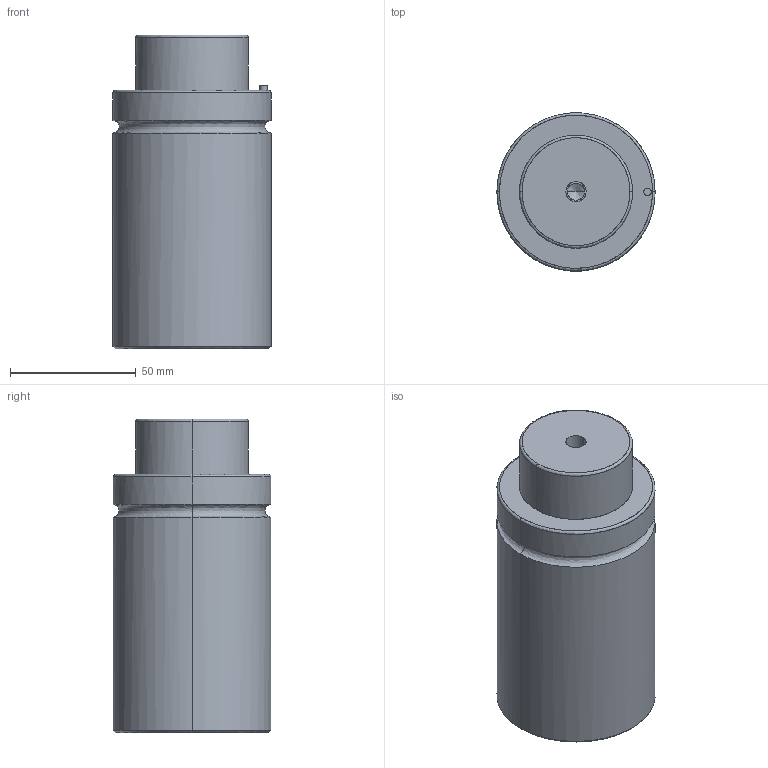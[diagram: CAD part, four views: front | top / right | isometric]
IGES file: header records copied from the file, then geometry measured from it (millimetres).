
Global section: file name: E:\UnigraphicsGraphicData\MISUMI_PRESS-PARTS\IGES\3d_gsm63-20_03911_r00.igs; native system: NX V5.0; preprocessor: UGS NX IGES V5.0; author: MISUMI; date: 20110105.160818; units: millimetre
Bounding box: 63 x 62.87 x 125 mm (x, y, z)
Surface area: 31416.7 mm2 (no closed solid volume)
Topology: 0 solids, 0 shells, 48 faces, 336 edges, 328 vertices
Faces by surface type: bspline 48
